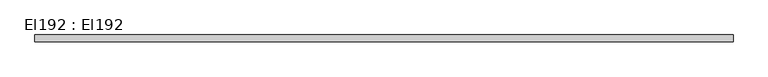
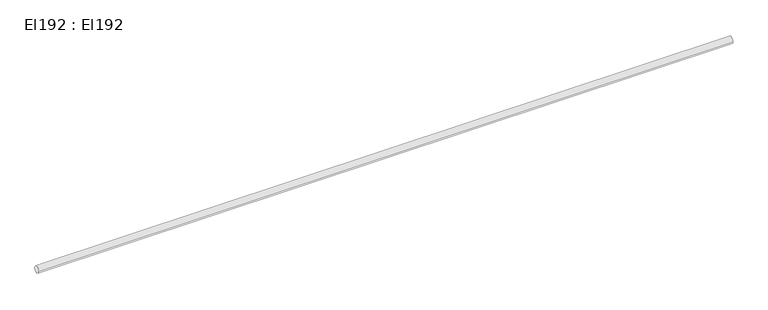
"""IFC4 building model written with IfcOpenShell, lengths in millimetres: cable carrier segment geometry, El192 : El192."""

from ifc_helpers import new_model, si_unit, point, frame, frame_2d, origin, place, context, project, spatial, circle_curve, trimmed, segment, composite_curve, outline, extrude, source, transform, mapped, element, save


def el192_el192_7c203ffa(model_context):
    return source(origin(), model_context, "Body", "SweptSolid", [
        extrude(outline(composite_curve([segment(trimmed(circle_curve(frame_2d((32159.7, 2950.0)), 9.5), [point((32150.2, 2950.0))], [point((32169.2, 2950.0))], False, "CARTESIAN"), True, "CONTINUOUS"), segment(trimmed(circle_curve(frame_2d((32159.7, 2950.0)), 9.5), [point((32169.2, 2950.0))], [point((32150.2, 2950.0))], False, "CARTESIAN"), True, "CONTINUOUS")], self_intersect=False)), frame((7651.1, 0.0, 0.0), z_axis=(1.0, 0.0, 0.0), x_axis=(0.0, 1.0, 0.0)), (0.0, 0.0, 1.0), 1900.0),
    ])


if __name__ == "__main__":
    model = new_model("IFC4")
    model_context = context("Model", 3, world=origin())
    ifc_project = project(units=[si_unit("LENGTHUNIT", "METRE", prefix="MILLI")], contexts=[model_context])
    site = spatial("IfcSite", under=ifc_project)
    building = spatial("IfcBuilding", under=site)
    placement = place(None, origin())
    el192_el192_shape = el192_el192_7c203ffa(model_context)
    element("IfcCableCarrierSegment", 1, ObjectType="El192 : El192", at=placement, inside=building, context=model_context, shape_type="MappedRepresentation", body=[
        mapped(el192_el192_shape, transform((0.0, 0.0, 0.0), x_axis=(1.0, 0.0, 0.0), y_axis=(0.0, 1.0, 0.0), z_axis=(0.0, 0.0, 1.0))),
    ])
    save(model, "model.ifc")
